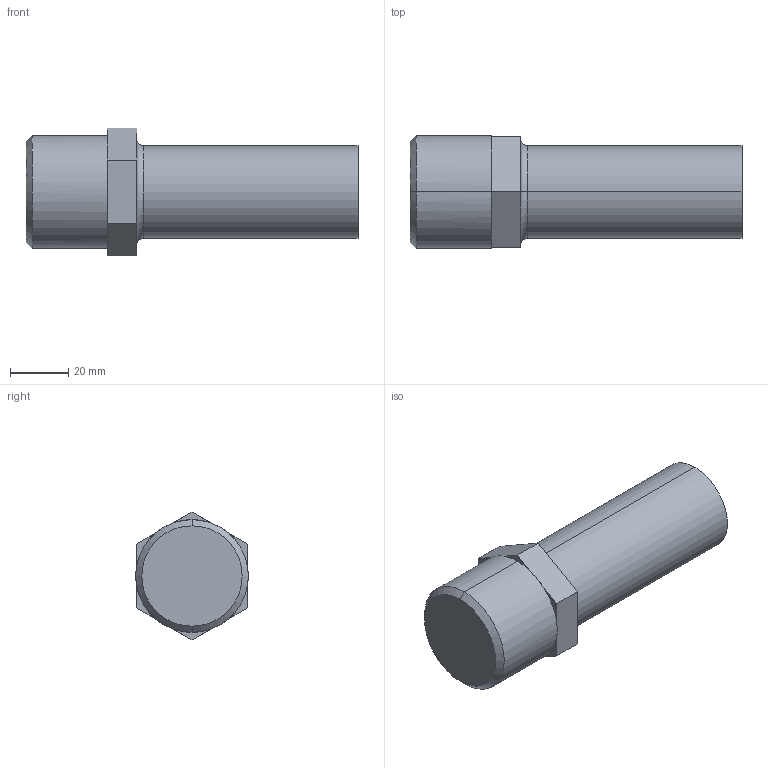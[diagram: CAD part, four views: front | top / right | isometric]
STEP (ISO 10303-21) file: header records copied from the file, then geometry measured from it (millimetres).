
FILE_DESCRIPTION (( 'STEP AP214' ), '1' );
FILE_NAME ('20-tube-out.STEP', '2012-12-03T18:54:55', ( '' ), ( '' ), 'SwSTEP 2.0', 'SolidWorks 2012', '' );
FILE_SCHEMA (( 'AUTOMOTIVE_DESIGN' ));
Length unit declared in the file: inch
Products named in the file (1): 20-tube-out
Bounding box: 114.3 x 38.79 x 43.99 mm (x, y, z)
Volume: 52125.6 mm3; surface area: 22091.1 mm2
Topology: 1 solids, 1 shells, 34 faces, 72 edges, 42 vertices
Faces by surface type: plane 22, cylinder 6, cone 4, torus 2
Entity records: 983 total; most frequent: DIRECTION 174, CARTESIAN_POINT 149, ORIENTED_EDGE 144, EDGE_CURVE 72, AXIS2_PLACEMENT_3D 67, VERTEX_POINT 42, LINE 40, VECTOR 40
